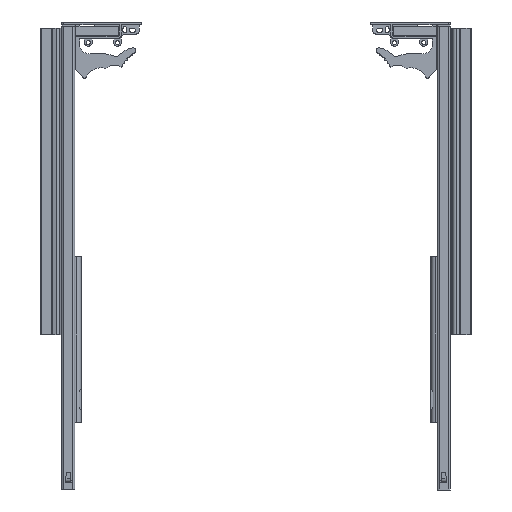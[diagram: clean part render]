
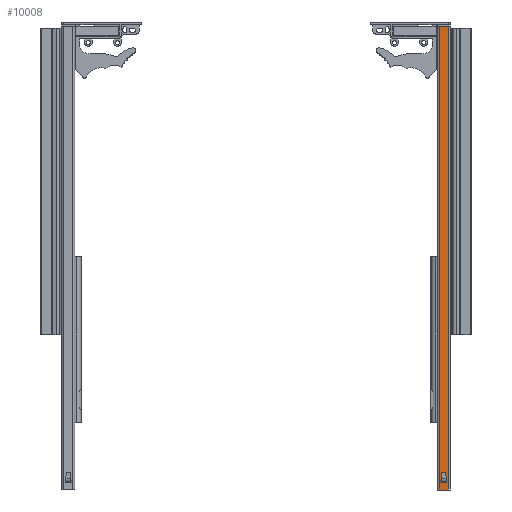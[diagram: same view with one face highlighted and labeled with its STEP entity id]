
A CAD part, front view. The second image highlights one B-rep face of the part: STEP entity #10008.
In plain terms, the highlighted planar face has unit normal (0, -1, 0).
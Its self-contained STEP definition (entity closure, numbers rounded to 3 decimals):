
#215=FACE_BOUND('',#1359,.T.);
#701=FACE_OUTER_BOUND('',#1358,.T.);
#1358=EDGE_LOOP('',(#7687,#7688,#7689,#7690));
#1359=EDGE_LOOP('',(#7691,#7692,#7693,#7694));
#2093=LINE('',#15508,#3073);
#2097=LINE('',#15515,#3077);
#2100=LINE('',#15547,#3080);
#2102=LINE('',#15553,#3082);
#2133=LINE('',#15640,#3113);
#2134=LINE('',#15643,#3114);
#2135=LINE('',#15645,#3115);
#2136=LINE('',#15646,#3116);
#3073=VECTOR('',#12531,10.);
#3077=VECTOR('',#12537,10.);
#3080=VECTOR('',#12542,10.);
#3082=VECTOR('',#12552,10.);
#3113=VECTOR('',#12635,10.);
#3114=VECTOR('',#12638,10.);
#3115=VECTOR('',#12639,10.);
#3116=VECTOR('',#12640,10.);
#4476=VERTEX_POINT('',#15505);
#4477=VERTEX_POINT('',#15507);
#4479=VERTEX_POINT('',#15513);
#4480=VERTEX_POINT('',#15545);
#4509=VERTEX_POINT('',#15636);
#4510=VERTEX_POINT('',#15638);
#4511=VERTEX_POINT('',#15642);
#4512=VERTEX_POINT('',#15644);
#5602=EDGE_CURVE('',#4477,#4476,#2093,.T.);
#5606=EDGE_CURVE('',#4476,#4479,#2097,.T.);
#5610=EDGE_CURVE('',#4479,#4480,#2100,.T.);
#5612=EDGE_CURVE('',#4480,#4477,#2102,.T.);
#5655=EDGE_CURVE('',#4509,#4510,#2133,.T.);
#5656=EDGE_CURVE('',#4509,#4511,#2134,.T.);
#5657=EDGE_CURVE('',#4512,#4510,#2135,.T.);
#5658=EDGE_CURVE('',#4511,#4512,#2136,.T.);
#7687=ORIENTED_EDGE('',*,*,#5656,.F.);
#7688=ORIENTED_EDGE('',*,*,#5655,.T.);
#7689=ORIENTED_EDGE('',*,*,#5657,.F.);
#7690=ORIENTED_EDGE('',*,*,#5658,.F.);
#7691=ORIENTED_EDGE('',*,*,#5602,.T.);
#7692=ORIENTED_EDGE('',*,*,#5606,.T.);
#7693=ORIENTED_EDGE('',*,*,#5610,.T.);
#7694=ORIENTED_EDGE('',*,*,#5612,.T.);
#9326=PLANE('',#10789);
#10008=ADVANCED_FACE('',(#701,#215),#9326,.T.);
#10789=AXIS2_PLACEMENT_3D('',#15641,#12636,#12637);
#12531=DIRECTION('',(0.,0.,-1.));
#12537=DIRECTION('',(-1.,0.,0.));
#12542=DIRECTION('',(0.,0.,1.));
#12552=DIRECTION('',(1.,0.,0.));
#12635=DIRECTION('',(0.,0.,-1.));
#12636=DIRECTION('center_axis',(0.,-1.,0.));
#12637=DIRECTION('ref_axis',(-1.,0.,0.));
#12638=DIRECTION('',(1.,0.,0.));
#12639=DIRECTION('',(-1.,0.,0.));
#12640=DIRECTION('',(0.,0.,-1.));
#15505=CARTESIAN_POINT('',(30.652,8.,-388.597));
#15507=CARTESIAN_POINT('',(30.652,8.,-387.097));
#15508=CARTESIAN_POINT('',(30.652,8.,-139.597));
#15513=CARTESIAN_POINT('',(24.034,8.,-388.597));
#15515=CARTESIAN_POINT('',(29.843,8.,-388.597));
#15545=CARTESIAN_POINT('',(24.034,8.,-387.097));
#15547=CARTESIAN_POINT('',(24.034,8.,-139.597));
#15553=CARTESIAN_POINT('',(29.843,8.,-387.097));
#15636=CARTESIAN_POINT('',(22.343,8.,107.903));
#15638=CARTESIAN_POINT('',(22.343,8.,-397.097));
#15640=CARTESIAN_POINT('',(22.343,8.,107.903));
#15641=CARTESIAN_POINT('Origin',(32.343,8.,107.903));
#15642=CARTESIAN_POINT('',(32.343,8.,107.903));
#15643=CARTESIAN_POINT('',(22.343,8.,107.903));
#15644=CARTESIAN_POINT('',(32.343,8.,-397.097));
#15645=CARTESIAN_POINT('',(22.343,8.,-397.097));
#15646=CARTESIAN_POINT('',(32.343,8.,107.903));
